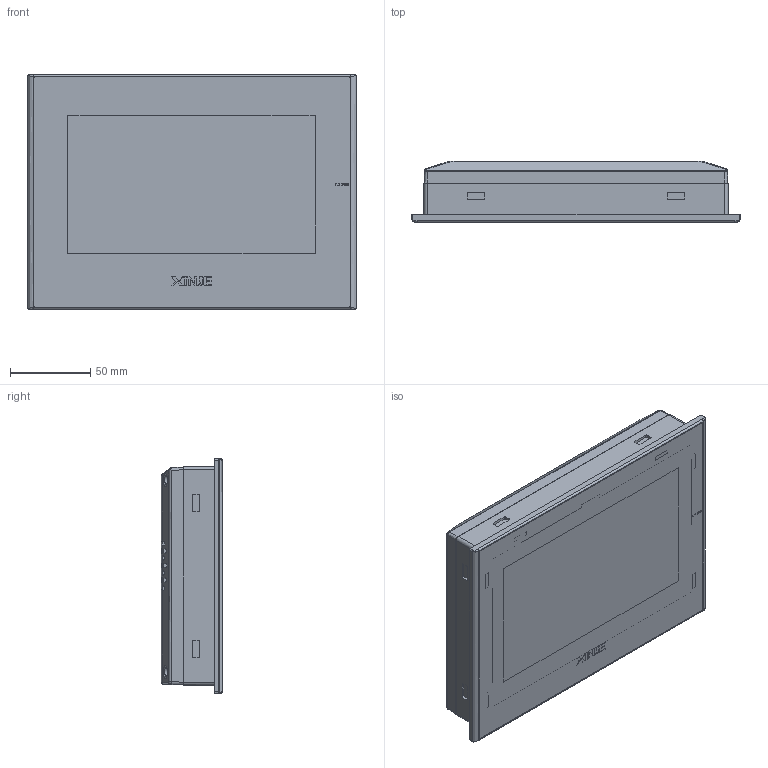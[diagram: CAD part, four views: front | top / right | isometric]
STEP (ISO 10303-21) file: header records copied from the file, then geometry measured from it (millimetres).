
FILE_DESCRIPTION(/* description */ (''),/* implementation_level */ '2;1');
FILE_NAME(/* name */ 'TG765S~2',/* time_stamp */ '2023-04-10T15:33:25+08:00',/* author */ (''),/* organization */ (''),/* preprocessor_version */ 'ST-DEVELOPER v16.5',/* originating_system */ '',/* authorisation */ '');
FILE_SCHEMA (('AUTOMOTIVE_DESIGN'));
Length unit declared in the file: millimetre
Products named in the file (1): Document
Bounding box: 205.4 x 38.46 x 146.5 mm (x, y, z)
Volume: 350854.3 mm3; surface area: 315148.2 mm2
Topology: 65 solids, 77 shells, 2059 faces, 5604 edges, 3703 vertices
Faces by surface type: plane 1663, bspline 396
Entity records: 68804 total; most frequent: CARTESIAN_POINT 30939, ORIENTED_EDGE 11173, EDGE_CURVE 5595, B_SPLINE_CURVE_WITH_KNOTS 5213, VERTEX_POINT 3695, EDGE_LOOP 2320, ADVANCED_FACE 2059, FACE_OUTER_BOUND 2059
